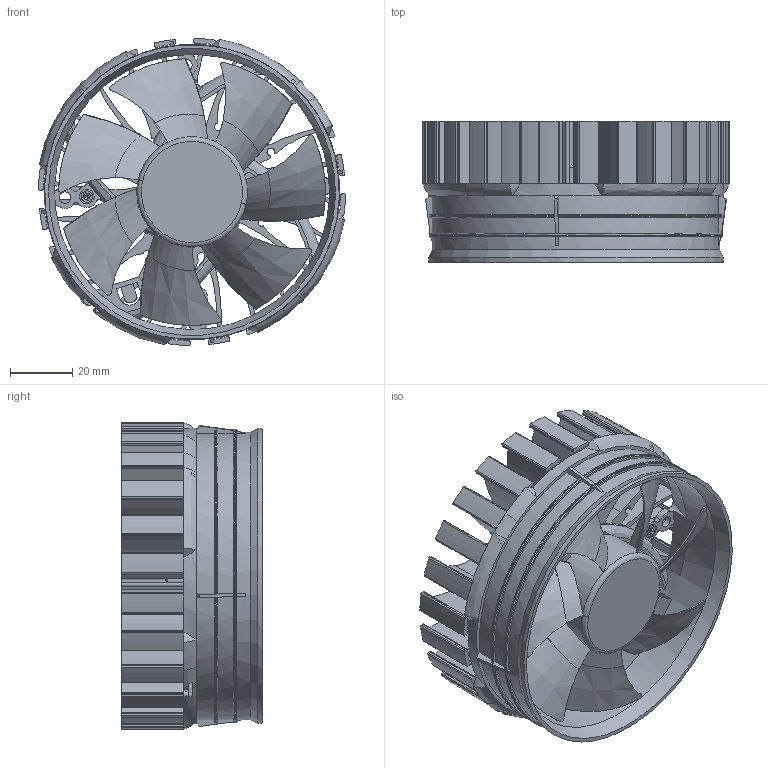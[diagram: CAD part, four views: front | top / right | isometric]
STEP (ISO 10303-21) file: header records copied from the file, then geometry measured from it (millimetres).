
FILE_DESCRIPTION (( 'STEP AP203' ), '1' );
FILE_NAME ('Assem2.STEP', '2013-04-10T03:25:29', ( 'Your User Name' ), ( 'Your Company Name' ), 'SwSTEP 2.0', 'SolidWorks 2012', '' );
FILE_SCHEMA (( 'CONFIG_CONTROL_DESIGN' ));
Products named in the file (4): Assem2; fan screw; Fan; IceLED_20mm
Assembly tree (6 placements, depth 2):
  Assem2
    IceLED_20mm
    Fan
    fan screw  x4
Bounding box: 98.98 x 45.4 x 98.98 mm (x, y, z)
Volume: 82055.2 mm3; surface area: 85142.5 mm2
Topology: 7 solids, 7 shells, 862 faces, 2558 edges, 1686 vertices
Faces by surface type: cylinder 475, bspline 191, plane 168, cone 28
Full cylindrical faces by diameter (mm): 2.598 x1, 2.998 x2, 3.118 x4, 3.7 x8, 4.7 x4, 5 x1, 7 x1, 8 x1, 9 x1, 10 x1, 11 x1, 33.2 x1, 35.6 x1, 88.8 x1, 92.8 x1, 94.8 x1, 95 x1
Entity records: 44074 total; most frequent: CARTESIAN_POINT 22953, ORIENTED_EDGE 4784, DIRECTION 3840, EDGE_CURVE 2392, VERTEX_POINT 1613, AXIS2_PLACEMENT_3D 1555, CIRCLE 903, EDGE_LOOP 891
